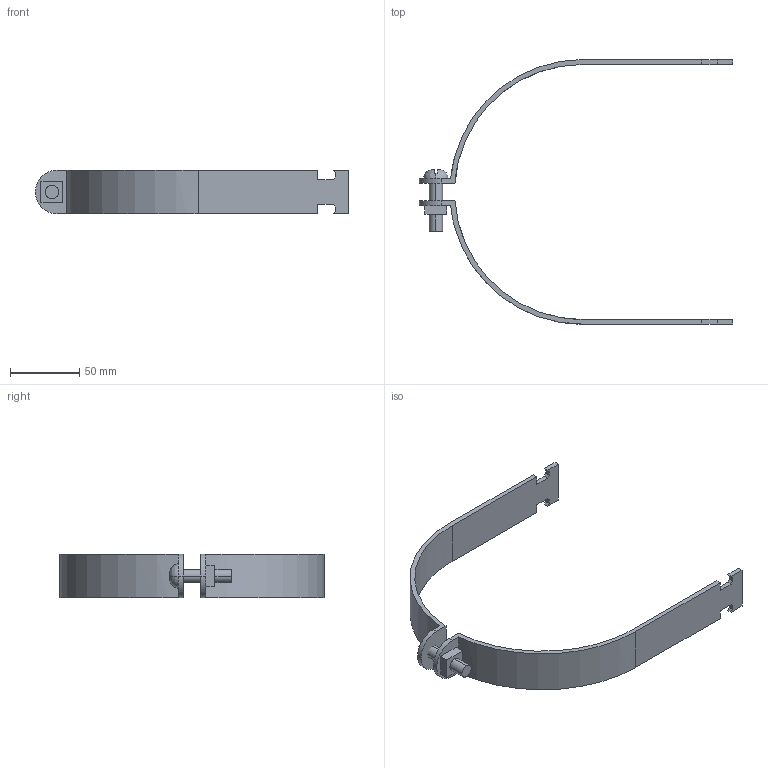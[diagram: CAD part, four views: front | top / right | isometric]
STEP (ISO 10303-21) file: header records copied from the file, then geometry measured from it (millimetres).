
FILE_DESCRIPTION(('TurboCAD Mac Pro'),'Build 980');
FILE_NAME('P2070-72.stp',' ',(''),(''),'ACIS Interop','IMSI','TurboCAD Mac Pro BY IMSI, INCORPORATED');
FILE_SCHEMA(('automotive_design'));
Length unit declared in the file: inch
Products named in the file (5): 1; 2; 3; 4; 5
Bounding box: 226.22 x 191.03 x 31.75 mm (x, y, z)
Volume: 62262.8 mm3; surface area: 40534.8 mm2
Topology: 4 solids, 4 shells, 71 faces, 186 edges, 124 vertices
Faces by surface type: plane 51, bspline 20
Entity records: 3487 total; most frequent: CARTESIAN_POINT 1050, ORIENTED_EDGE 372, DIRECTION 258, EDGE_CURVE 186, LINE 138, VECTOR 138, VERTEX_POINT 124, STYLED_ITEM 91
